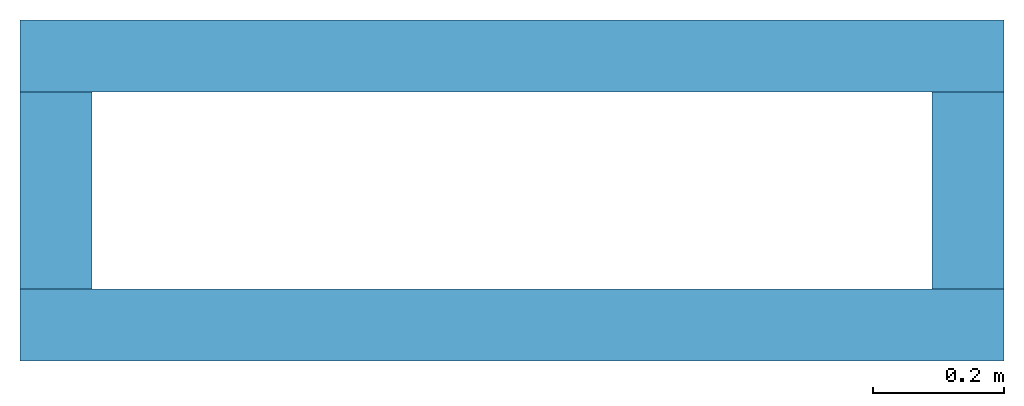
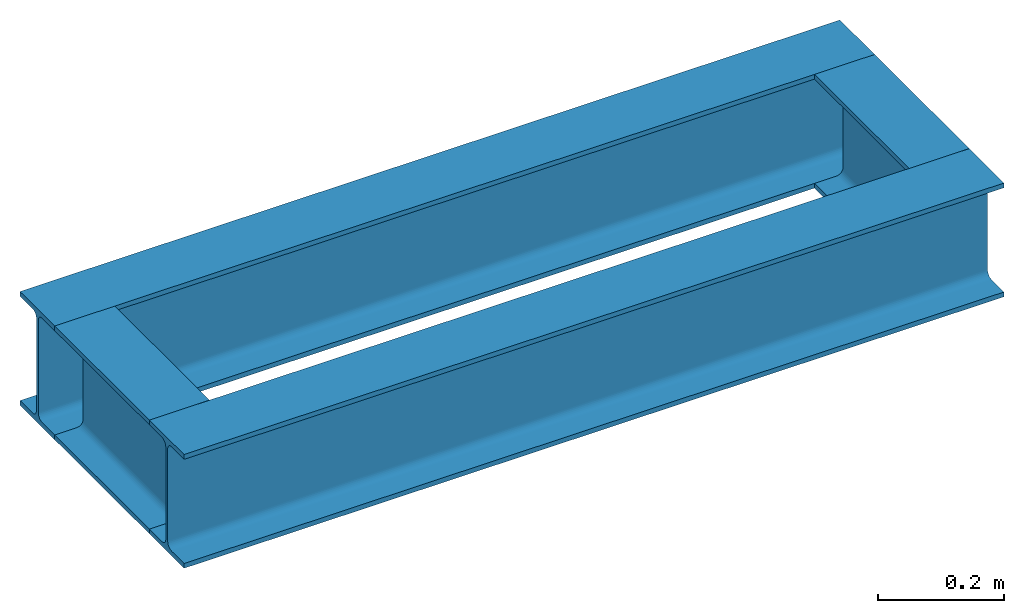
# One storey: 4 beams.
"""IFC4 building model written with IfcOpenShell, lengths in millimetres."""

from ifc_helpers import new_model, entity, si_unit, converted_unit, derived_unit, direction, frame, origin, place, context, subcontext, project, spatial, line, arc, indexed_curve, outline, extrude, source, transform, mapped, material, type_object, type_shapes, element, save


model = new_model("IFC4")

# Units and contexts
model_context = context("Model", 3, precision=0.01, world=origin(), true_north=direction((6.123031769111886e-17, 1.0)))
body_context = subcontext(model_context, "Body", "Model", "MODEL_VIEW")
ifc_project = project(units=[si_unit("LENGTHUNIT", "METRE", prefix="MILLI"), si_unit("AREAUNIT", "SQUARE_METRE"), si_unit("VOLUMEUNIT", "CUBIC_METRE"), converted_unit("PLANEANGLEUNIT", "DEGREE", entity("IfcRatioMeasure", 0.017453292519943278), si_unit("PLANEANGLEUNIT", "RADIAN"), dimensions=[0, 0, 0, 0, 0, 0, 0]), si_unit("MASSUNIT", "GRAM", prefix="KILO"), derived_unit("MASSDENSITYUNIT", [(si_unit("MASSUNIT", "GRAM", prefix="KILO"), 1), (si_unit("LENGTHUNIT", "METRE"), -3)]), derived_unit("MOMENTOFINERTIAUNIT", [(si_unit("LENGTHUNIT", "METRE"), 4)]), si_unit("TIMEUNIT", "SECOND"), si_unit("FREQUENCYUNIT", "HERTZ"), si_unit("THERMODYNAMICTEMPERATUREUNIT", "DEGREE_CELSIUS"), derived_unit("THERMALTRANSMITTANCEUNIT", [(si_unit("MASSUNIT", "GRAM", prefix="KILO"), 1), (si_unit("THERMODYNAMICTEMPERATUREUNIT", "KELVIN"), -1), (si_unit("TIMEUNIT", "SECOND"), -3)]), derived_unit("VOLUMETRICFLOWRATEUNIT", [(si_unit("LENGTHUNIT", "METRE"), 3), (si_unit("TIMEUNIT", "SECOND"), -1)]), derived_unit("MASSFLOWRATEUNIT", [(si_unit("MASSUNIT", "GRAM", prefix="KILO"), 1), (si_unit("TIMEUNIT", "SECOND"), -1)]), derived_unit("ROTATIONALFREQUENCYUNIT", [(si_unit("TIMEUNIT", "SECOND"), -1)]), si_unit("ELECTRICCURRENTUNIT", "AMPERE"), si_unit("ELECTRICVOLTAGEUNIT", "VOLT"), si_unit("POWERUNIT", "WATT"), si_unit("FORCEUNIT", "NEWTON", prefix="KILO"), si_unit("ILLUMINANCEUNIT", "LUX"), si_unit("LUMINOUSFLUXUNIT", "LUMEN"), si_unit("LUMINOUSINTENSITYUNIT", "CANDELA"), derived_unit("USERDEFINED", [(si_unit("MASSUNIT", "GRAM", prefix="KILO"), -1), (si_unit("LENGTHUNIT", "METRE"), -2), (si_unit("TIMEUNIT", "SECOND"), 3), (si_unit("LUMINOUSFLUXUNIT", "LUMEN"), 1)]), derived_unit("SOUNDPOWERUNIT", [(si_unit("MASSUNIT", "GRAM", prefix="KILO"), 1), (si_unit("LENGTHUNIT", "METRE"), 2), (si_unit("TIMEUNIT", "SECOND"), -3)]), derived_unit("SOUNDPRESSUREUNIT", [(si_unit("MASSUNIT", "GRAM", prefix="KILO"), 1), (si_unit("LENGTHUNIT", "METRE"), -1), (si_unit("TIMEUNIT", "SECOND"), -2)]), derived_unit("LINEARVELOCITYUNIT", [(si_unit("LENGTHUNIT", "METRE"), 1), (si_unit("TIMEUNIT", "SECOND"), -1)]), si_unit("PRESSUREUNIT", "PASCAL"), derived_unit("USERDEFINED", [(si_unit("LENGTHUNIT", "METRE"), -2), (si_unit("MASSUNIT", "GRAM", prefix="KILO"), 1), (si_unit("TIMEUNIT", "SECOND"), -2)]), derived_unit("LINEARFORCEUNIT", [(si_unit("MASSUNIT", "GRAM", prefix="KILO"), 1), (si_unit("LENGTHUNIT", "METRE"), 1), (si_unit("TIMEUNIT", "SECOND"), -2), (si_unit("LENGTHUNIT", "METRE"), -1)]), derived_unit("PLANARFORCEUNIT", [(si_unit("MASSUNIT", "GRAM", prefix="KILO"), 1), (si_unit("LENGTHUNIT", "METRE"), 1), (si_unit("TIMEUNIT", "SECOND"), -2), (si_unit("LENGTHUNIT", "METRE"), -2)])], contexts=[model_context])

# Site, building, storey
site_placement = place(None, origin())
site = spatial("IfcSite", under=ifc_project, at=site_placement, Name="Default", CompositionType="ELEMENT")
building_placement = place(site_placement, origin())
building = spatial("IfcBuilding", under=site, at=building_placement, CompositionType="ELEMENT")
storey_placement = place(building_placement, frame((0.0, 0.0, -130.0)))
storey = spatial("IfcBuildingStorey", under=building, at=storey_placement, Name="Cabeza_Plares", CompositionType="ELEMENT", Elevation=-130.0)

# Beams
ifc_material = material(Name="Structural Steel - S235", Category="Materials")
beam_type_1 = type_object("IfcBeamType", Name="IPE:IPE220", PredefinedType="BEAM", material=ifc_material)
shared_shape_1 = source(origin(), body_context, "Body", "SweptSolid", [
    extrude(outline(indexed_curve([(-109.99999999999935, -55.00000000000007), (-100.80000000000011, -55.00000000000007), (-100.80000000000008, -14.95), (-97.28528137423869, -6.464718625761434), (-88.80000000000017, -2.9499999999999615), (88.79999999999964, -2.949999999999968), (97.28528137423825, -6.464718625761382), (100.79999999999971, -14.949999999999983), (100.79999999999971, -55.00000000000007), (110.00000000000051, -55.00000000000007), (110.00000000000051, 55.000000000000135), (100.79999999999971, 55.000000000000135), (100.79999999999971, 14.950000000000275), (97.28528137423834, 6.464718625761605), (88.79999999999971, 2.9500000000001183), (-88.79999999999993, 2.9500000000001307), (-97.2852813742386, 6.46471862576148), (-100.80000000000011, 14.950000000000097), (-100.80000000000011, 54.99999999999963), (-109.99999999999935, 54.99999999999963)], segments=[line(1, 2, 3), arc(3, 4, 5), line(5, 6), arc(6, 7, 8), line(8, 9, 10, 11, 12, 13), arc(13, 14, 15), line(15, 16), arc(16, 17, 18), line(18, 19, 20, 1)], self_intersect=False)), frame((-750.0, 0.0, 0.0), z_axis=(1.0, 0.0, 0.0), x_axis=(0.0, 0.0, -1.0)), (0.0, 0.0, 1.0), 1500.0),
])
type_shapes(beam_type_1, [shared_shape_1])
for number, where, name in (
    (1, (750.0, 455.0, -10.0), "IPE:IPE220"),
    (2, (750.0, 45.0, -10.0), "IPE:IPE220"),
):
    element("IfcBeam", number, at=place(storey_placement, frame(where)), inside=storey, type_object=beam_type_1, material=ifc_material, Name=name, ObjectType="IPE:IPE220", PredefinedType="BEAM", context=body_context, shape_type="MappedRepresentation", body=[
        mapped(shared_shape_1, transform((0.0, 0.0, 0.0), scale=1.0)),
    ])
beam_type_2 = type_object("IfcBeamType", Name="IPE:IPE220", PredefinedType="BEAM", material=ifc_material)
shared_shape_2 = source(origin(), body_context, "Body", "SweptSolid", [
    extrude(outline(indexed_curve([(-109.99999999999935, -55.00000000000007), (-100.80000000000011, -55.00000000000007), (-100.80000000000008, -14.95), (-97.28528137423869, -6.464718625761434), (-88.80000000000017, -2.9499999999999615), (88.79999999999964, -2.949999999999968), (97.28528137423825, -6.464718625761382), (100.79999999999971, -14.949999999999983), (100.79999999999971, -55.00000000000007), (110.00000000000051, -55.00000000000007), (110.00000000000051, 55.000000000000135), (100.79999999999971, 55.000000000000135), (100.79999999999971, 14.950000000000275), (97.28528137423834, 6.464718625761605), (88.79999999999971, 2.9500000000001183), (-88.79999999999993, 2.9500000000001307), (-97.2852813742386, 6.46471862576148), (-100.80000000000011, 14.950000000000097), (-100.80000000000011, 54.99999999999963), (-109.99999999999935, 54.99999999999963)], segments=[line(1, 2, 3), arc(3, 4, 5), line(5, 6), arc(6, 7, 8), line(8, 9, 10, 11, 12, 13), arc(13, 14, 15), line(15, 16), arc(16, 17, 18), line(18, 19, 20, 1)], self_intersect=False)), frame((-150.0, 0.0, 0.0), z_axis=(1.0, 0.0, 0.0), x_axis=(0.0, 0.0, -1.0)), (0.0, 0.0, 1.0), 300.0),
])
type_shapes(beam_type_2, [shared_shape_2])
for number, where, z_axis, x_axis, name in (
    (3, (55.0, 250.0, -10.0), (0.0, 0.0, 1.0), (0.0, 1.0, 0.0), "IPE:IPE220"),
    (4, (1445.0, 250.0, -10.0), (0.0, 0.0, 1.0), (0.0, 1.0, 0.0), "IPE:IPE220"),
):
    element("IfcBeam", number, at=place(storey_placement, frame(where, z_axis=z_axis, x_axis=x_axis)), inside=storey, type_object=beam_type_2, material=ifc_material, Name=name, ObjectType="IPE:IPE220", PredefinedType="BEAM", context=body_context, shape_type="MappedRepresentation", body=[
        mapped(shared_shape_2, transform((0.0, 0.0, 0.0), scale=1.0)),
    ])

save(model, "model.ifc")
